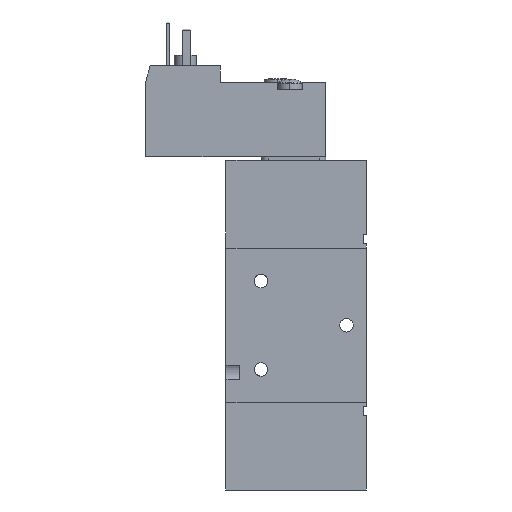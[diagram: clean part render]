
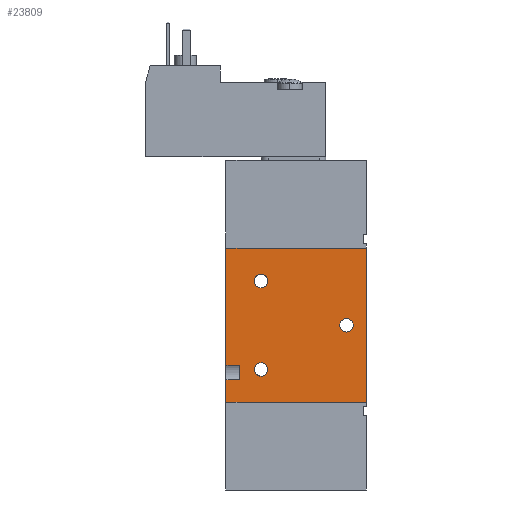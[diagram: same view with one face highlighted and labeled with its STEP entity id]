
A CAD part, left-side view. The second image highlights one B-rep face of the part: STEP entity #23809.
In plain terms, the highlighted planar face has unit normal (-1, 0, 0).
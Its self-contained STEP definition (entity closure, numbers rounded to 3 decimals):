
#433 = ORIENTED_EDGE ( 'NONE', *, *, #8342, .T. ) ;
#439 = CIRCLE ( 'NONE', #10928, 1.55 ) ;
#2411 = AXIS2_PLACEMENT_3D ( 'NONE', #36997, #18188, #40160 ) ;
#2685 = EDGE_LOOP ( 'NONE', ( #15595, #7178 ) ) ;
#2910 = EDGE_CURVE ( 'NONE', #29702, #18463, #30923, .T. ) ;
#3157 = DIRECTION ( 'NONE',  ( 0., 0., 1. ) ) ;
#4127 = VERTEX_POINT ( 'NONE', #7109 ) ;
#4307 = DIRECTION ( 'NONE',  ( 0., 0., -1. ) ) ;
#5080 = VERTEX_POINT ( 'NONE', #19956 ) ;
#5177 = ORIENTED_EDGE ( 'NONE', *, *, #7908, .F. ) ;
#5763 = VERTEX_POINT ( 'NONE', #31336 ) ;
#5795 = CARTESIAN_POINT ( 'NONE',  ( 11.289, 28.389, 31.939 ) ) ;
#5810 = VECTOR ( 'NONE', #11811, 1000. ) ;
#6361 = CARTESIAN_POINT ( 'NONE',  ( 11.289, 36.389, 11.148 ) ) ;
#6696 = CARTESIAN_POINT ( 'NONE',  ( 11.289, 8.889, 20.289 ) ) ;
#7109 = CARTESIAN_POINT ( 'NONE',  ( 11.289, 8.889, 21.839 ) ) ;
#7160 = ORIENTED_EDGE ( 'NONE', *, *, #8577, .T. ) ;
#7178 = ORIENTED_EDGE ( 'NONE', *, *, #34163, .T. ) ;
#7472 = CARTESIAN_POINT ( 'NONE',  ( 11.289, 36.389, 37.889 ) ) ;
#7776 = CARTESIAN_POINT ( 'NONE',  ( 11.289, 28.389, 30.389 ) ) ;
#7871 = DIRECTION ( 'NONE',  ( 1., 0., 0. ) ) ;
#7908 = EDGE_CURVE ( 'NONE', #23434, #29702, #36165, .T. ) ;
#7961 = ORIENTED_EDGE ( 'NONE', *, *, #23417, .T. ) ;
#8018 = AXIS2_PLACEMENT_3D ( 'NONE', #14875, #36873, #18051 ) ;
#8138 = CARTESIAN_POINT ( 'NONE',  ( 11.289, 28.389, 11.739 ) ) ;
#8342 = EDGE_CURVE ( 'NONE', #23434, #20682, #10048, .T. ) ;
#8382 = CARTESIAN_POINT ( 'NONE',  ( 11.289, 36.389, 37.889 ) ) ;
#8577 = EDGE_CURVE ( 'NONE', #4127, #5080, #25324, .T. ) ;
#8869 = VERTEX_POINT ( 'NONE', #27024 ) ;
#9267 = VERTEX_POINT ( 'NONE', #32739 ) ;
#9277 = CARTESIAN_POINT ( 'NONE',  ( 11.289, 28.389, 28.839 ) ) ;
#9832 = DIRECTION ( 'NONE',  ( 0., 0., 1. ) ) ;
#9933 = CARTESIAN_POINT ( 'NONE',  ( 11.289, 4.389, 37.889 ) ) ;
#10048 = LINE ( 'NONE', #8382, #24846 ) ;
#10247 = CIRCLE ( 'NONE', #8018, 1.55 ) ;
#10921 = DIRECTION ( 'NONE',  ( 0., 0., 1. ) ) ;
#10928 = AXIS2_PLACEMENT_3D ( 'NONE', #7776, #29789, #10921 ) ;
#11811 = DIRECTION ( 'NONE',  ( 0., 0., -1. ) ) ;
#12276 = EDGE_LOOP ( 'NONE', ( #7961, #29856, #35648, #21361, #19280, #5177, #433, #30676 ) ) ;
#12524 = PLANE ( 'NONE',  #25096 ) ;
#12945 = CARTESIAN_POINT ( 'NONE',  ( 11.289, 28.389, 30.389 ) ) ;
#14200 = EDGE_LOOP ( 'NONE', ( #7160, #29025 ) ) ;
#14317 = CIRCLE ( 'NONE', #15625, 1.55 ) ;
#14875 = CARTESIAN_POINT ( 'NONE',  ( 11.289, 8.889, 20.289 ) ) ;
#15595 = ORIENTED_EDGE ( 'NONE', *, *, #17623, .T. ) ;
#15625 = AXIS2_PLACEMENT_3D ( 'NONE', #26711, #7871, #29877 ) ;
#16102 = DIRECTION ( 'NONE',  ( 0., 0., 1. ) ) ;
#16427 = ORIENTED_EDGE ( 'NONE', *, *, #33079, .T. ) ;
#16551 = VERTEX_POINT ( 'NONE', #9277 ) ;
#16613 = CARTESIAN_POINT ( 'NONE',  ( 11.289, 33.389, 7.831 ) ) ;
#16750 = DIRECTION ( 'NONE',  ( 0., 1., 0. ) ) ;
#16854 = CARTESIAN_POINT ( 'NONE',  ( 11.289, 33.389, 37.889 ) ) ;
#17031 = EDGE_CURVE ( 'NONE', #5763, #33132, #30082, .T. ) ;
#17287 = FACE_BOUND ( 'NONE', #35671, .T. ) ;
#17623 = EDGE_CURVE ( 'NONE', #23738, #16551, #32043, .T. ) ;
#17888 = CARTESIAN_POINT ( 'NONE',  ( 11.289, 36.389, 11.148 ) ) ;
#18051 = DIRECTION ( 'NONE',  ( 0., 0., 1. ) ) ;
#18130 = AXIS2_PLACEMENT_3D ( 'NONE', #6696, #28706, #9832 ) ;
#18188 = DIRECTION ( 'NONE',  ( 1., 0., 0. ) ) ;
#18463 = VERTEX_POINT ( 'NONE', #33466 ) ;
#18964 = EDGE_CURVE ( 'NONE', #5080, #4127, #10247, .T. ) ;
#19217 = VECTOR ( 'NONE', #36933, 1000. ) ;
#19280 = ORIENTED_EDGE ( 'NONE', *, *, #2910, .F. ) ;
#19477 = VECTOR ( 'NONE', #26765, 1000. ) ;
#19956 = CARTESIAN_POINT ( 'NONE',  ( 11.289, 8.889, 18.739 ) ) ;
#20682 = VERTEX_POINT ( 'NONE', #17888 ) ;
#20816 = ORIENTED_EDGE ( 'NONE', *, *, #17031, .T. ) ;
#21361 = ORIENTED_EDGE ( 'NONE', *, *, #33798, .T. ) ;
#22054 = DIRECTION ( 'NONE',  ( 1., 0., 0. ) ) ;
#23417 = EDGE_CURVE ( 'NONE', #24267, #25527, #30122, .T. ) ;
#23434 = VERTEX_POINT ( 'NONE', #7472 ) ;
#23709 = VECTOR ( 'NONE', #37981, 1000. ) ;
#23738 = VERTEX_POINT ( 'NONE', #5795 ) ;
#23809 = ADVANCED_FACE ( 'NONE', ( #17287, #25670, #24691, #33005 ), #12524, .F. ) ;
#23847 = EDGE_CURVE ( 'NONE', #20682, #24267, #38435, .T. ) ;
#24267 = VERTEX_POINT ( 'NONE', #31066 ) ;
#24691 = FACE_BOUND ( 'NONE', #14200, .T. ) ;
#24846 = VECTOR ( 'NONE', #33512, 1000. ) ;
#25096 = AXIS2_PLACEMENT_3D ( 'NONE', #28219, #22054, #3157 ) ;
#25324 = CIRCLE ( 'NONE', #18130, 1.55 ) ;
#25527 = VERTEX_POINT ( 'NONE', #16613 ) ;
#25670 = FACE_BOUND ( 'NONE', #2685, .T. ) ;
#26711 = CARTESIAN_POINT ( 'NONE',  ( 11.289, 28.389, 10.189 ) ) ;
#26765 = DIRECTION ( 'NONE',  ( 0., -1., 0. ) ) ;
#27024 = CARTESIAN_POINT ( 'NONE',  ( 11.289, 36.389, 7.831 ) ) ;
#27455 = CARTESIAN_POINT ( 'NONE',  ( 11.289, 36.389, 2.689 ) ) ;
#27549 = LINE ( 'NONE', #27455, #19217 ) ;
#28219 = CARTESIAN_POINT ( 'NONE',  ( 11.289, 36.389, 37.889 ) ) ;
#28482 = LINE ( 'NONE', #38843, #34836 ) ;
#28706 = DIRECTION ( 'NONE',  ( 1., 0., 0. ) ) ;
#29025 = ORIENTED_EDGE ( 'NONE', *, *, #18964, .T. ) ;
#29261 = CARTESIAN_POINT ( 'NONE',  ( 11.289, 36.389, 7.831 ) ) ;
#29702 = VERTEX_POINT ( 'NONE', #9933 ) ;
#29789 = DIRECTION ( 'NONE',  ( 1., 0., 0. ) ) ;
#29856 = ORIENTED_EDGE ( 'NONE', *, *, #38276, .T. ) ;
#29877 = DIRECTION ( 'NONE',  ( 0., 0., 1. ) ) ;
#30001 = VECTOR ( 'NONE', #16750, 1000. ) ;
#30082 = CIRCLE ( 'NONE', #2411, 1.55 ) ;
#30122 = LINE ( 'NONE', #16854, #36469 ) ;
#30663 = CARTESIAN_POINT ( 'NONE',  ( 11.289, 4.389, 37.889 ) ) ;
#30676 = ORIENTED_EDGE ( 'NONE', *, *, #23847, .T. ) ;
#30753 = EDGE_CURVE ( 'NONE', #8869, #9267, #28482, .T. ) ;
#30923 = LINE ( 'NONE', #30663, #5810 ) ;
#31066 = CARTESIAN_POINT ( 'NONE',  ( 11.289, 33.389, 11.148 ) ) ;
#31336 = CARTESIAN_POINT ( 'NONE',  ( 11.289, 28.389, 8.639 ) ) ;
#32043 = CIRCLE ( 'NONE', #34566, 1.55 ) ;
#32499 = DIRECTION ( 'NONE',  ( 0., 0., -1. ) ) ;
#32739 = CARTESIAN_POINT ( 'NONE',  ( 11.289, 36.389, 2.689 ) ) ;
#33005 = FACE_OUTER_BOUND ( 'NONE', #12276, .T. ) ;
#33070 = CARTESIAN_POINT ( 'NONE',  ( 11.289, 36.389, 37.889 ) ) ;
#33079 = EDGE_CURVE ( 'NONE', #33132, #5763, #14317, .T. ) ;
#33132 = VERTEX_POINT ( 'NONE', #8138 ) ;
#33466 = CARTESIAN_POINT ( 'NONE',  ( 11.289, 4.389, 2.689 ) ) ;
#33512 = DIRECTION ( 'NONE',  ( 0., 0., -1. ) ) ;
#33798 = EDGE_CURVE ( 'NONE', #9267, #18463, #27549, .T. ) ;
#34163 = EDGE_CURVE ( 'NONE', #16551, #23738, #439, .T. ) ;
#34566 = AXIS2_PLACEMENT_3D ( 'NONE', #12945, #34927, #16102 ) ;
#34836 = VECTOR ( 'NONE', #4307, 1000. ) ;
#34927 = DIRECTION ( 'NONE',  ( 1., 0., 0. ) ) ;
#35648 = ORIENTED_EDGE ( 'NONE', *, *, #30753, .T. ) ;
#35671 = EDGE_LOOP ( 'NONE', ( #16427, #20816 ) ) ;
#36165 = LINE ( 'NONE', #33070, #19477 ) ;
#36469 = VECTOR ( 'NONE', #32499, 1000. ) ;
#36873 = DIRECTION ( 'NONE',  ( 1., 0., 0. ) ) ;
#36933 = DIRECTION ( 'NONE',  ( 0., -1., 0. ) ) ;
#36997 = CARTESIAN_POINT ( 'NONE',  ( 11.289, 28.389, 10.189 ) ) ;
#37981 = DIRECTION ( 'NONE',  ( 0., -1., 0. ) ) ;
#38276 = EDGE_CURVE ( 'NONE', #25527, #8869, #38357, .T. ) ;
#38357 = LINE ( 'NONE', #29261, #30001 ) ;
#38435 = LINE ( 'NONE', #6361, #23709 ) ;
#38843 = CARTESIAN_POINT ( 'NONE',  ( 11.289, 36.389, 37.889 ) ) ;
#40160 = DIRECTION ( 'NONE',  ( 0., 0., 1. ) ) ;
